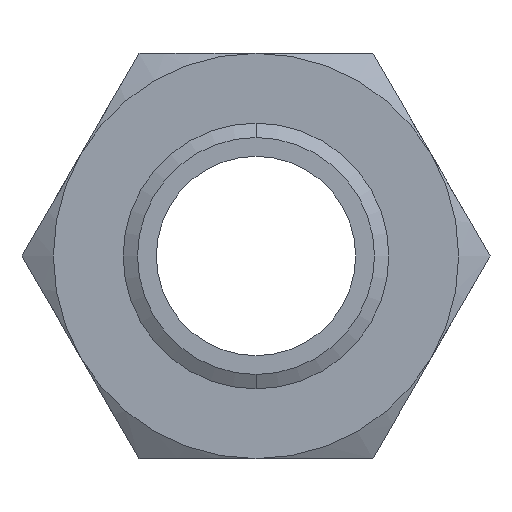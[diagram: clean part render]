
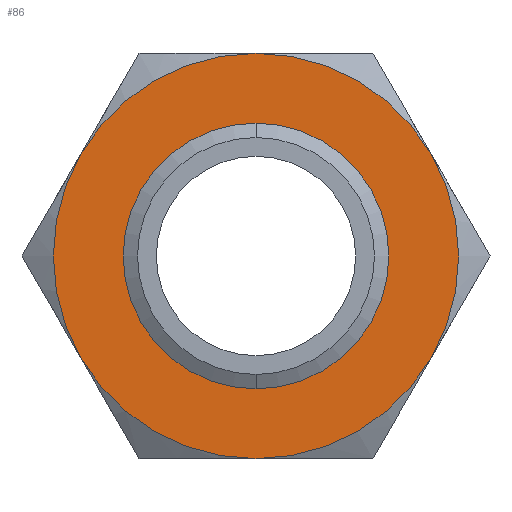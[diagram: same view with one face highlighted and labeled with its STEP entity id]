
A CAD part, front view. The second image highlights one B-rep face of the part: STEP entity #86.
In plain terms, the highlighted planar face has unit normal (0, -1, 0).
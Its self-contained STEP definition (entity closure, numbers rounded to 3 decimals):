
#1 = VERTEX_POINT ( 'NONE', #32 ) ;
#2 = VERTEX_POINT ( 'NONE', #31 ) ;
#5 = VERTEX_POINT ( 'NONE', #652 ) ;
#6 = VERTEX_POINT ( 'NONE', #651 ) ;
#7 = VERTEX_POINT ( 'NONE', #650 ) ;
#8 = ORIENTED_EDGE ( 'NONE', *, *, #9, .F. ) ;
#9 = EDGE_CURVE ( 'NONE', #3182, #2, #649, .T. ) ;
#10 = ORIENTED_EDGE ( 'NONE', *, *, #11, .F. ) ;
#11 = EDGE_CURVE ( 'NONE', #2, #1, #644, .T. ) ;
#12 = EDGE_CURVE ( 'NONE', #1, #5, #639, .T. ) ;
#13 = ORIENTED_EDGE ( 'NONE', *, *, #12, .F. ) ;
#14 = ORIENTED_EDGE ( 'NONE', *, *, #15, .F. ) ;
#15 = EDGE_CURVE ( 'NONE', #5, #6, #634, .T. ) ;
#16 = EDGE_CURVE ( 'NONE', #6, #7, #689, .T. ) ;
#24 = EDGE_LOOP ( 'NONE', ( #27, #26 ) ) ;
#26 = ORIENTED_EDGE ( 'NONE', *, *, #28, .F. ) ;
#27 = ORIENTED_EDGE ( 'NONE', *, *, #354, .F. ) ;
#28 = EDGE_CURVE ( 'NONE', #345, #353, #674, .T. ) ;
#31 = CARTESIAN_POINT ( 'NONE',  ( 0., 0., -77.5 ) ) ;
#32 = CARTESIAN_POINT ( 'NONE',  ( -67.117, 0., -38.75 ) ) ;
#55 = ORIENTED_EDGE ( 'NONE', *, *, #16, .F. ) ;
#57 = EDGE_LOOP ( 'NONE', ( #55, #14, #13, #10, #8, #358 ) ) ;
#86 = ADVANCED_FACE ( 'NONE', ( #813, #812 ), #811, .F. ) ;
#345 = VERTEX_POINT ( 'NONE', #1309 ) ;
#350 = EDGE_CURVE ( 'NONE', #7, #3182, #1301, .T. ) ;
#353 = VERTEX_POINT ( 'NONE', #1295 ) ;
#354 = EDGE_CURVE ( 'NONE', #353, #345, #1293, .T. ) ;
#358 = ORIENTED_EDGE ( 'NONE', *, *, #350, .F. ) ;
#632 = CARTESIAN_POINT ( 'NONE',  ( 0., 0., 0. ) ) ;
#633 = AXIS2_PLACEMENT_3D ( 'NONE', #632, #691, #690 ) ;
#634 = CIRCLE ( 'NONE', #633, 77.5 ) ;
#635 = DIRECTION ( 'NONE',  ( 0., 0., 1. ) ) ;
#636 = DIRECTION ( 'NONE',  ( 0., 1., 0. ) ) ;
#637 = CARTESIAN_POINT ( 'NONE',  ( 0., 0., 0. ) ) ;
#638 = AXIS2_PLACEMENT_3D ( 'NONE', #637, #636, #635 ) ;
#639 = CIRCLE ( 'NONE', #638, 77.5 ) ;
#640 = DIRECTION ( 'NONE',  ( 0., 0., 1. ) ) ;
#641 = DIRECTION ( 'NONE',  ( 0., 1., 0. ) ) ;
#642 = CARTESIAN_POINT ( 'NONE',  ( 0., 0., 0. ) ) ;
#643 = AXIS2_PLACEMENT_3D ( 'NONE', #642, #641, #640 ) ;
#644 = CIRCLE ( 'NONE', #643, 77.5 ) ;
#645 = DIRECTION ( 'NONE',  ( 0., 0., 1. ) ) ;
#646 = DIRECTION ( 'NONE',  ( 0., 1., 0. ) ) ;
#647 = CARTESIAN_POINT ( 'NONE',  ( 0., 0., 0. ) ) ;
#648 = AXIS2_PLACEMENT_3D ( 'NONE', #647, #646, #645 ) ;
#649 = CIRCLE ( 'NONE', #648, 77.5 ) ;
#650 = CARTESIAN_POINT ( 'NONE',  ( 67.117, 0., 38.75 ) ) ;
#651 = CARTESIAN_POINT ( 'NONE',  ( 0., 0., 77.5 ) ) ;
#652 = CARTESIAN_POINT ( 'NONE',  ( -67.117, 0., 38.75 ) ) ;
#670 = DIRECTION ( 'NONE',  ( 0., 0., -1. ) ) ;
#671 = DIRECTION ( 'NONE',  ( 0., -1., 0. ) ) ;
#672 = CARTESIAN_POINT ( 'NONE',  ( 0., 0., 0. ) ) ;
#673 = AXIS2_PLACEMENT_3D ( 'NONE', #672, #671, #670 ) ;
#674 = CIRCLE ( 'NONE', #673, 45.301 ) ;
#685 = DIRECTION ( 'NONE',  ( 0., 0., 1. ) ) ;
#686 = DIRECTION ( 'NONE',  ( 0., 1., 0. ) ) ;
#687 = CARTESIAN_POINT ( 'NONE',  ( 0., 0., 0. ) ) ;
#688 = AXIS2_PLACEMENT_3D ( 'NONE', #687, #686, #685 ) ;
#689 = CIRCLE ( 'NONE', #688, 77.5 ) ;
#690 = DIRECTION ( 'NONE',  ( 0., 0., 1. ) ) ;
#691 = DIRECTION ( 'NONE',  ( 0., 1., 0. ) ) ;
#807 = DIRECTION ( 'NONE',  ( 0., 0., 1. ) ) ;
#808 = DIRECTION ( 'NONE',  ( 0., 1., 0. ) ) ;
#809 = CARTESIAN_POINT ( 'NONE',  ( 44.745, 0., -77.5 ) ) ;
#810 = AXIS2_PLACEMENT_3D ( 'NONE', #809, #808, #807 ) ;
#811 = PLANE ( 'NONE',  #810 ) ;
#812 = FACE_BOUND ( 'NONE', #24, .T. ) ;
#813 = FACE_OUTER_BOUND ( 'NONE', #57, .T. ) ;
#1289 = DIRECTION ( 'NONE',  ( 0., 0., -1. ) ) ;
#1290 = DIRECTION ( 'NONE',  ( 0., -1., 0. ) ) ;
#1291 = CARTESIAN_POINT ( 'NONE',  ( 0., 0., 0. ) ) ;
#1292 = AXIS2_PLACEMENT_3D ( 'NONE', #1291, #1290, #1289 ) ;
#1293 = CIRCLE ( 'NONE', #1292, 45.301 ) ;
#1295 = CARTESIAN_POINT ( 'NONE',  ( 0., 0., -45.301 ) ) ;
#1297 = DIRECTION ( 'NONE',  ( 0., 0., 1. ) ) ;
#1298 = DIRECTION ( 'NONE',  ( 0., 1., 0. ) ) ;
#1299 = CARTESIAN_POINT ( 'NONE',  ( 0., 0., 0. ) ) ;
#1300 = AXIS2_PLACEMENT_3D ( 'NONE', #1299, #1298, #1297 ) ;
#1301 = CIRCLE ( 'NONE', #1300, 77.5 ) ;
#1309 = CARTESIAN_POINT ( 'NONE',  ( 0., 0., 45.301 ) ) ;
#2669 = CARTESIAN_POINT ( 'NONE',  ( 67.117, 0., -38.75 ) ) ;
#3182 = VERTEX_POINT ( 'NONE', #2669 ) ;
